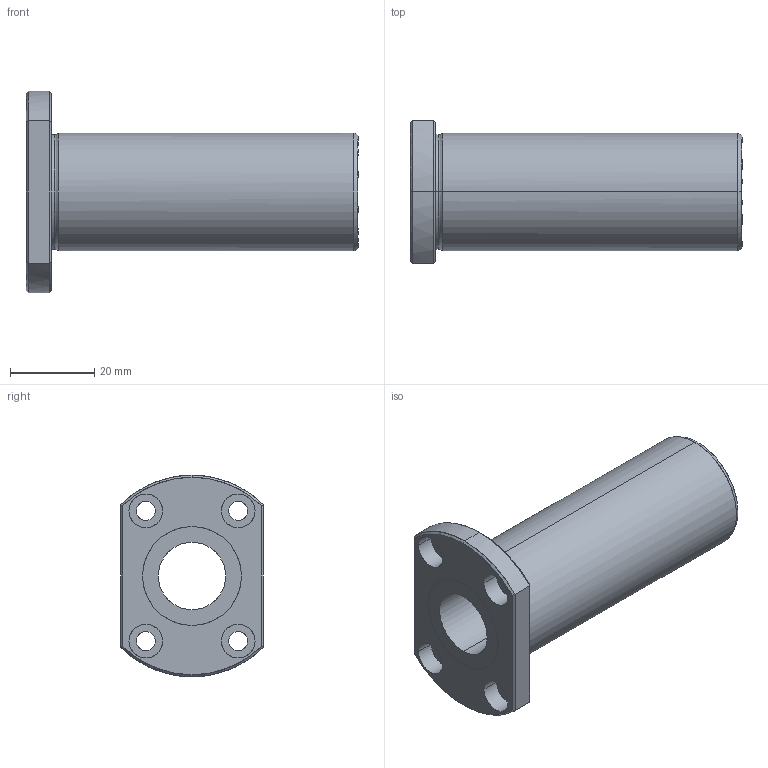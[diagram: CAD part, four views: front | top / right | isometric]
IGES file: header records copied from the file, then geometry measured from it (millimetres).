
Global section: file name: No Iges File Name specified; native system: AutoDesk Inventor R10; preprocessor: AutoDesk Inventor Iges Exporter R10; author: No Author specified; organization: No Organization specified; date: 20101216.154536; units: millimetre
Bounding box: 79 x 34 x 48 mm (x, y, z)
Surface area: 14130.9 mm2 (no closed solid volume)
Topology: 0 solids, 0 shells, 57 faces, 360 edges, 360 vertices
Faces by surface type: bspline 57
